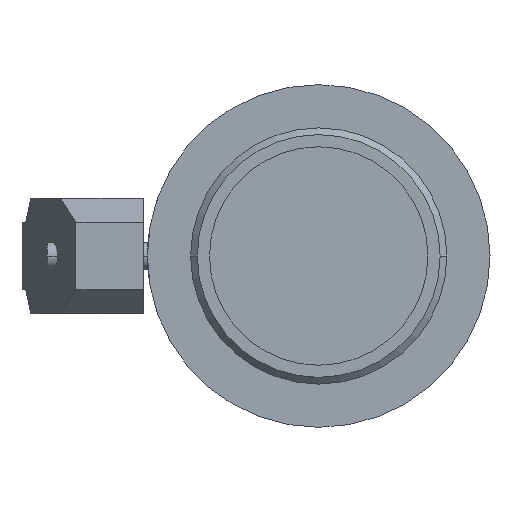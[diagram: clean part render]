
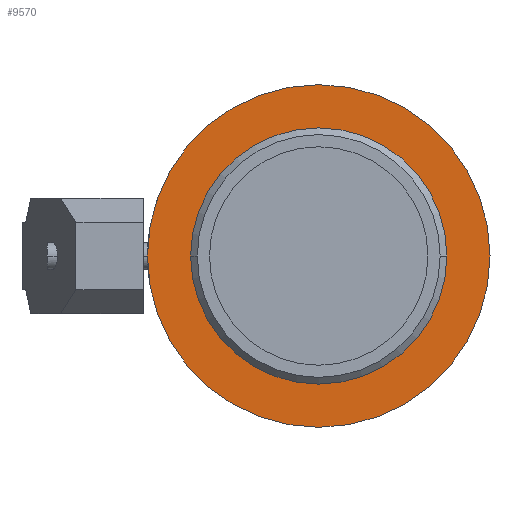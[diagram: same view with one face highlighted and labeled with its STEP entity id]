
A CAD part, left-side view. The second image highlights one B-rep face of the part: STEP entity #9570.
In plain terms, the highlighted planar face has unit normal (-1, 0, 0).
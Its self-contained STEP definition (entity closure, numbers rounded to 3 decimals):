
#9010=CARTESIAN_POINT('',(-108.126,108.875,0.));
#9020=VERTEX_POINT('',#9010);
#9050=CARTESIAN_POINT('',(-108.126,45.375,0.));
#9060=DIRECTION('',(-1.,-0.,0.));
#9070=DIRECTION('',(0.,-1.,0.));
#9080=AXIS2_PLACEMENT_3D('',#9050,#9060,#9070);
#9090=CIRCLE('',#9080,63.5);
#9100=CARTESIAN_POINT('',(-108.126,-18.125,
0.));
#9110=VERTEX_POINT('',#9100);
#9120=EDGE_CURVE('',#9020,#9110,#9090,.T.);
#9320=CARTESIAN_POINT('',(-108.126,92.975,0.));
#9330=DIRECTION('',(-1.,0.,0.));
#9340=DIRECTION('',(0.,1.,0.));
#9350=AXIS2_PLACEMENT_3D('',#9320,#9330,#9340);
#9360=PLANE('',#9350);
#9370=EDGE_CURVE('',#9110,#9020,#9090,.T.);
#9380=ORIENTED_EDGE('',*,*,#9370,.T.);
#9390=ORIENTED_EDGE('',*,*,#9120,.T.);
#9400=EDGE_LOOP('',(#9390,#9380));
#9410=FACE_OUTER_BOUND('',#9400,.T.);
#9420=CARTESIAN_POINT('',(-108.126,45.375,0.));
#9430=DIRECTION('',(1.,0.,0.));
#9440=DIRECTION('',(0.,-1.,0.));
#9450=AXIS2_PLACEMENT_3D('',#9420,#9430,#9440);
#9460=CIRCLE('',#9450,45.);
#9470=CARTESIAN_POINT('',(-108.126,90.375,
0.));
#9480=VERTEX_POINT('',#9470);
#9490=CARTESIAN_POINT('',(-108.126,0.375,0.));
#9500=VERTEX_POINT('',#9490);
#9510=EDGE_CURVE('',#9480,#9500,#9460,.T.);
#9520=ORIENTED_EDGE('',*,*,#9510,.T.);
#9530=EDGE_CURVE('',#9500,#9480,#9460,.T.);
#9540=ORIENTED_EDGE('',*,*,#9530,.T.);
#9550=EDGE_LOOP('',(#9540,#9520));
#9560=FACE_BOUND('',#9550,.T.);
#9570=ADVANCED_FACE('',(#9410,#9560),#9360,.T.);
